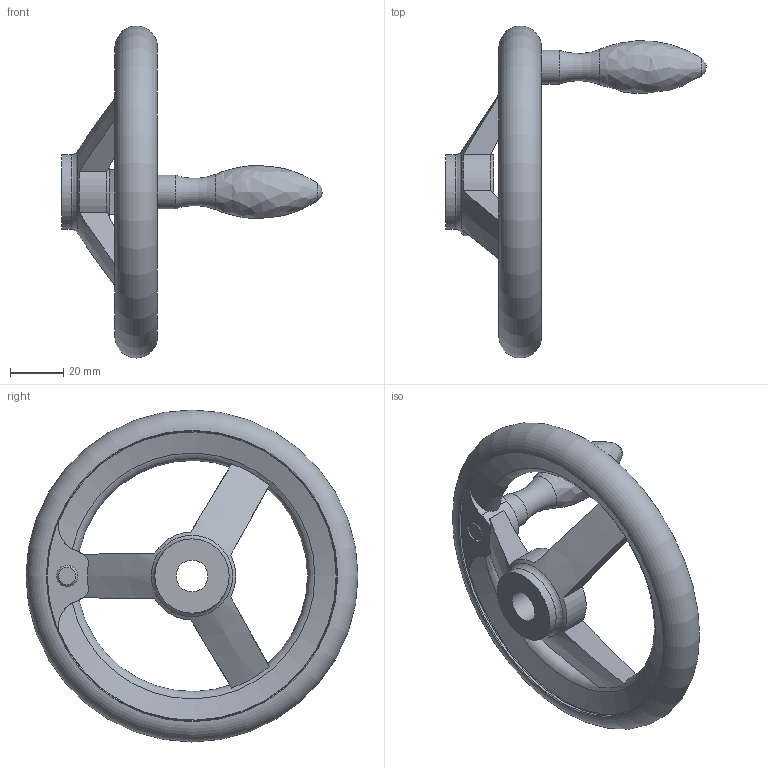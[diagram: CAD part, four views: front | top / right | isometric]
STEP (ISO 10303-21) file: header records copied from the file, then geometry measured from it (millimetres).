
FILE_DESCRIPTION( ( 'STEP AP203' ), '1' );
FILE_NAME( 'C:/Temp/Ganter_Step_05_03_2020/data/1_3/din_950/din_950_b/din_950_b_f/Handwheel DIN 950-GG-125-B12-F.stp', '2020-03-05T10:30:05', ( 'License CC BY-ND 4.0' ), ( 'CADENAS' ), ' ', 'PARTsolutions', ' ' );
FILE_SCHEMA( ( 'CONFIG_CONTROL_DESIGN' ) );
Length unit declared in the file: millimetre
Products named in the file (1): _Handwheel DIN 950-GG-125-B12-F
Bounding box: 98 x 125 x 125 mm (x, y, z)
Volume: 104729.7 mm3; surface area: 29551.2 mm2
Topology: 1 solids, 1 shells, 44 faces, 122 edges, 77 vertices
Faces by surface type: cylinder 15, torus 11, plane 11, cone 5, bspline 1, sphere 1
Full cylindrical faces by diameter (mm): 8 x1, 12 x1, 12.8 x1, 28 x2, 109 x2
Entity records: 1643 total; most frequent: CARTESIAN_POINT 612, DIRECTION 194, ORIENTED_EDGE 192, EDGE_CURVE 96, AXIS2_PLACEMENT_3D 91, VERTEX_POINT 73, EDGE_LOOP 69, FACE_OUTER_BOUND 60
